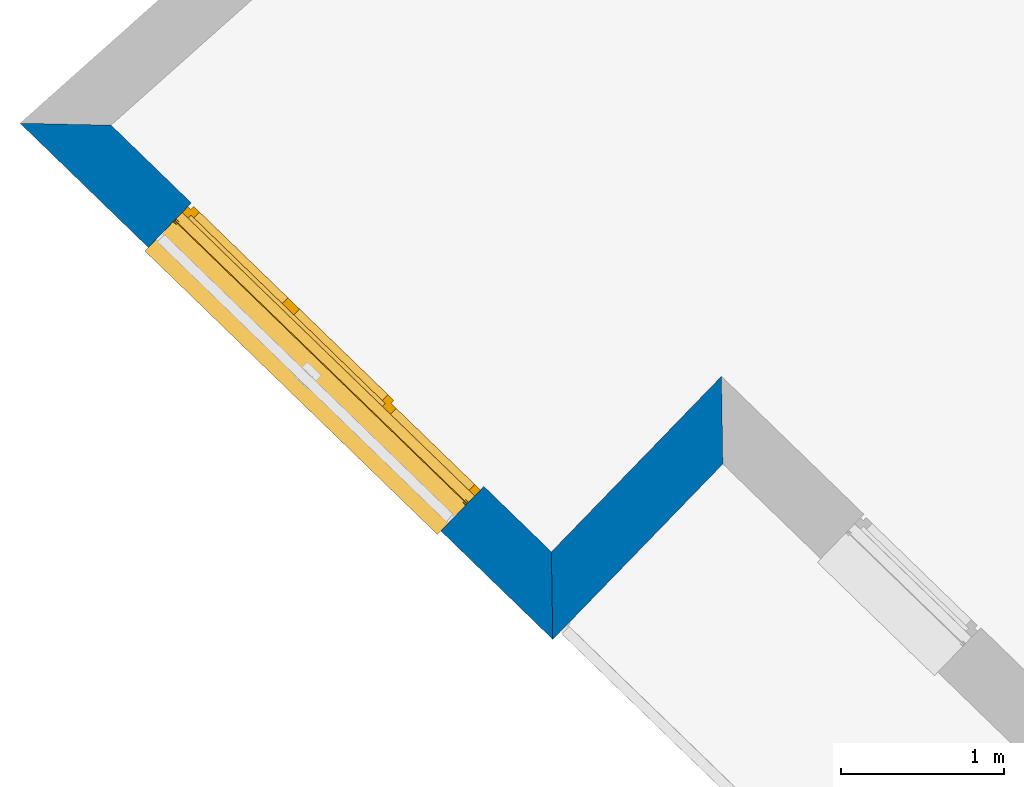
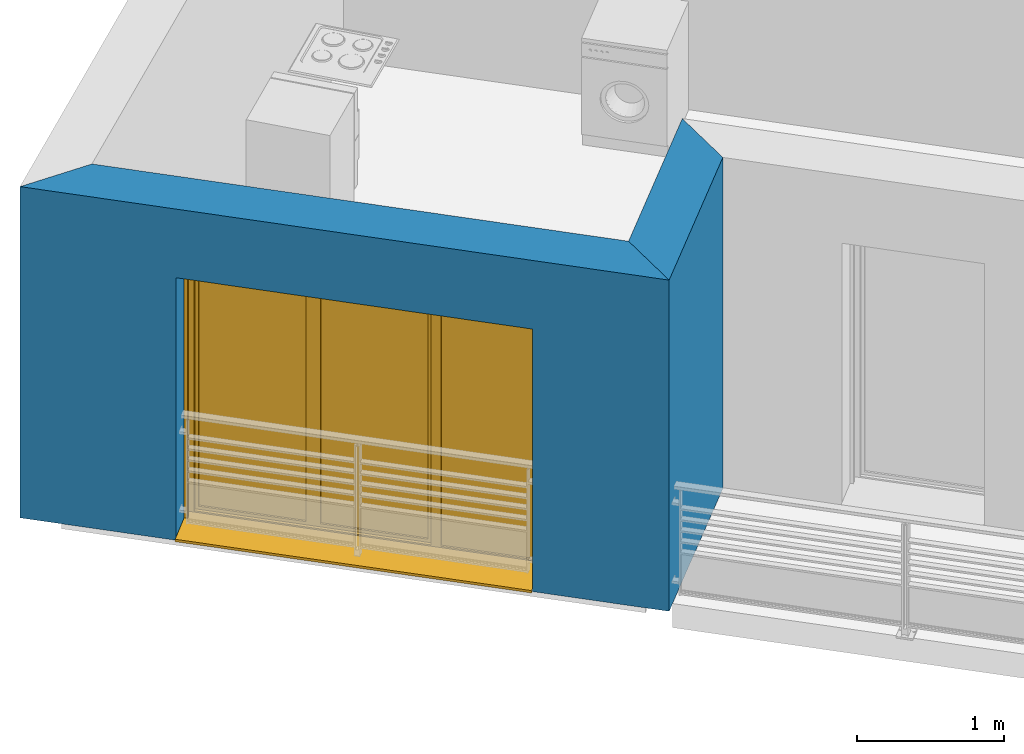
# One storey, part 11 of 121: 2 walls, 1 window, 1 opening.
"""IFC2X3 building model written with IfcOpenShell, lengths in metres."""

from ifc_helpers import new_model, entity, si_unit, converted_unit, derived_unit, money_unit, direction, frame, origin_with_axes, place, context, subcontext, project, spatial, polyline, outline, extrude, open_shell, faceted_brep, surface_model, source, transform, mapped, material, layer, layer_set, layer_usage, type_object, element, fill, save


model = new_model("IFC2X3")

# Units and contexts
model_context = context("Model", 3, precision=1e-05, world=origin_with_axes(), true_north=direction((0.0, 1.0)))
body_context = subcontext(model_context, "Body", "Model", "MODEL_VIEW")
ifc_project = project(units=[si_unit("LENGTHUNIT", "METRE"), si_unit("AREAUNIT", "SQUARE_METRE"), si_unit("VOLUMEUNIT", "CUBIC_METRE"), converted_unit("PLANEANGLEUNIT", "DEGREE", entity("IfcPlaneAngleMeasure", 0.0174532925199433), si_unit("PLANEANGLEUNIT", "RADIAN"), dimensions=[0, 0, 0, 0, 0, 0, 0]), money_unit("CHF"), converted_unit("TIMEUNIT", "Year", entity("IfcTimeMeasure", 31557600.0), si_unit("TIMEUNIT", "SECOND"), dimensions=[0, 0, 1, 0, 0, 0, 0]), si_unit("MASSUNIT", "GRAM", prefix="KILO"), si_unit("THERMODYNAMICTEMPERATUREUNIT", "DEGREE_CELSIUS"), si_unit("LUMINOUSINTENSITYUNIT", "LUMEN"), si_unit("ENERGYUNIT", "JOULE", prefix="MEGA"), derived_unit("THERMALCONDUCTANCEUNIT", [(si_unit("POWERUNIT", "WATT"), 1), (si_unit("LENGTHUNIT", "METRE"), -1), (si_unit("THERMODYNAMICTEMPERATUREUNIT", "KELVIN"), -1)]), derived_unit("SPECIFICHEATCAPACITYUNIT", [(si_unit("ENERGYUNIT", "JOULE"), 1), (si_unit("MASSUNIT", "GRAM", prefix="KILO"), -1), (si_unit("THERMODYNAMICTEMPERATUREUNIT", "KELVIN"), -1)]), derived_unit("MASSDENSITYUNIT", [(si_unit("MASSUNIT", "GRAM", prefix="KILO"), 1), (si_unit("VOLUMEUNIT", "CUBIC_METRE"), -1)])], contexts=[model_context])

# Site, building, storey
site_placement = place(None, origin_with_axes())
site = spatial("IfcSite", under=ifc_project, at=site_placement, Name="Site", CompositionType="ELEMENT")
building_placement = place(site_placement, origin_with_axes())
building = spatial("IfcBuilding", under=site, at=building_placement, Name="Bâtiment", CompositionType="ELEMENT")
storey_placement = place(building_placement, frame((0.0, 0.0, 2.75), z_axis=(0.0, 0.0, 1.0), x_axis=(1.0, 0.0, 0.0)))
storey = spatial("IfcBuildingStorey", under=building, at=storey_placement, Name="Etage 1", CompositionType="ELEMENT", Elevation=2.75)

# Wall
ifc_material_1 = material(Name="Parpaing 312445824")
ifc_layer_1 = layer(ifc_material_1, 0.22, ventilated="UNKNOWN")
ifc_material_2 = material(Name="Isolant styromousse 301821074")
ifc_layer_2 = layer(ifc_material_2, 0.16, ventilated="UNKNOWN")
ifc_layer_set = layer_set([ifc_layer_1, ifc_layer_2], Name="isol int 22+16 0836643197")
ifc_layer_usage_1 = layer_usage(ifc_layer_set, "AXIS2", "NEGATIVE", 0.0)
wall_type = type_object("IfcWallType", Name="isol int 22+16 0836643197 380", PredefinedType="NOTDEFINED")
wall_1_placement = place(storey_placement, frame((9515.572352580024, -1064.510660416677, 57.7), z_axis=(0.0, 0.0, 1.0), x_axis=(-0.6958610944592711, -0.7181763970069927, 0.0)))
element("IfcWallStandardCase", 1, at=wall_1_placement, inside=storey, type_object=wall_type, material=ifc_layer_usage_1, Name="Mur-115", context=body_context, shape_type="SweptSolid", body=[
    extrude(outline(polyline([(-0.380000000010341, -0.3799999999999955), (1.120000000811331, -0.3799999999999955), (1.500000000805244, 0.0), (0.0, 0.0), (-0.380000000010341, -0.3799999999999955)])), origin_with_axes(), (0.0, 0.0, 1.0), 2.75),
])

# Wall, opening, window
ifc_layer_usage_2 = layer_usage(ifc_layer_set, "AXIS2", "NEGATIVE", 0.0)
wall_2_placement = place(storey_placement, frame((9514.528560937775, -1065.587925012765, 57.7), z_axis=(0.0, 0.0, 1.0), x_axis=(-0.7181763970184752, 0.6958610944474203, 0.0)))
wall_2 = element("IfcWallStandardCase", 2, at=wall_2_placement, inside=storey, type_object=wall_type, material=ifc_layer_usage_2, Name="Mur-115", context=body_context, shape_type="SweptSolid", body=[
    extrude(outline(polyline([(0.3799999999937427, -0.3800000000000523), (4.143226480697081, -0.3800000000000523), (4.552444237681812, 0.0), (0.0, 0.0), (0.3799999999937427, -0.3800000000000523)])), origin_with_axes(), (0.0, 0.0, 1.0), 2.75),
])
opening_placement = place(wall_2_placement, frame((2.206747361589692, 0.0, 0.0), z_axis=(0.0, 0.0, 1.0), x_axis=(1.0, 0.0, 0.0)))
opening = element("IfcOpeningElement", 3, at=opening_placement, cuts=wall_2, Name="Fen-050", context=body_context, shape_type="Brep", body=[
    faceted_brep([(1.25, -0.4800000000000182, 2.18), (-1.249999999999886, -0.4800000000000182, 2.18), (-1.25, -2.656088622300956, 2.18), (1.250000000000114, -2.656088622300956, 2.18), (1.25, -0.4800000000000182, 2.380000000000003), (-1.249999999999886, -0.4800000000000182, 2.380000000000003), (-1.249999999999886, -0.3000000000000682, 2.18), (-1.249999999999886, -0.3000000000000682, 0.0), (-1.25, -2.656088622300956, 0.0), (1.250000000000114, -2.656088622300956, 0.0), (1.250000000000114, -0.2999999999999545, 2.18), (1.250000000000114, -0.2999999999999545, 0.0), (1.25, -0.2200000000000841, 2.18), (1.25, -0.2200000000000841, 2.380000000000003), (-1.25, -0.220000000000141, 2.380000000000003), (-1.25, -0.220000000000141, 2.18), (-1.25, 2.276088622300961, 2.18), (-1.25, 2.276088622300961, 0.0), (1.250000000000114, 2.276088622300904, 0.0), (1.250000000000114, 2.276088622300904, 2.18)], [[[0, 1, 2, 3]], [[1, 0, 4, 5]], [[1, 6, 7, 8, 2]], [[2, 8, 9, 3]], [[10, 0, 3, 9, 11]], [[0, 10, 12, 13, 4]], [[14, 5, 4, 13]], [[6, 1, 5, 14, 15]], [[6, 15, 16, 17, 7]], [[7, 11, 9, 8]], [[12, 10, 11, 18, 19]], [[12, 15, 14, 13]], [[15, 12, 19, 16]], [[19, 18, 17, 16]], [[11, 7, 17, 18]]]),
])
window_style = type_object("IfcWindowStyle", Name="Fenêtre variable 27", ConstructionType="NOTDEFINED", OperationType="TRIPLE_PANEL_VERTICAL", ParameterTakesPrecedence=False, Sizeable=False)
shared_shape = source(origin_with_axes(), body_context, "Body", "SurfaceModel", [
    surface_model("IfcShellBasedSurfaceModel", [(-1.25, -0.05100000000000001, 0.05), (-1.25, -0.05100000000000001, 0.04), (1.25, -0.05100000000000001, 0.04000000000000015), (1.25, -0.05100000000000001, 0.05000000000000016), (-1.25, -0.3799999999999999, 0.02899999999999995), (1.25, -0.3799999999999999, 0.02900000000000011), (-1.25, -0.3799999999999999, 0.008999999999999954), (1.25, -0.3799999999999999, 0.009000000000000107), (-1.25, -0.3699999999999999, 0.01899999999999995), (1.25, -0.3699999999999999, 0.01900000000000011)], [open_shell([[[0, 1, 2, 3]], [[1, 4, 5, 2]], [[4, 6, 7, 5]], [[6, 8, 9, 7]]])]),
    faceted_brep([(-1.25, -0.1300000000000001, 2.38), (-1.247, -0.1300000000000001, 2.38), (-1.247, 0.1299999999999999, 2.38), (-1.25, 0.1299999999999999, 2.38), (-1.25, -0.1300000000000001, 2.18), (-1.247, -0.1300000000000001, 2.18), (-1.247, 0.1299999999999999, 2.18), (-1.25, 0.1299999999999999, 2.18)], [[[0, 1, 2, 3]], [[4, 5, 1, 0]], [[1, 5, 6, 2]], [[3, 2, 6, 7]], [[0, 3, 7, 4]], [[7, 6, 5, 4]]]),
    faceted_brep([(1.247, -0.1299999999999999, 2.38), (1.25, -0.1299999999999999, 2.38), (1.25, 0.1300000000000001, 2.38), (1.247, 0.1300000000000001, 2.38), (1.247, -0.1299999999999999, 2.18), (1.25, -0.1299999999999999, 2.18), (1.25, 0.1300000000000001, 2.18), (1.247, 0.1300000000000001, 2.18)], [[[0, 1, 2, 3]], [[4, 5, 1, 0]], [[1, 5, 6, 2]], [[3, 2, 6, 7]], [[0, 3, 7, 4]], [[7, 6, 5, 4]]]),
    faceted_brep([(-1.247, -0.1300000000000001, 2.18), (1.247, -0.1299999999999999, 2.18), (1.247, -0.1299999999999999, 2.38), (-1.247, -0.1300000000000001, 2.38), (-1.247, -0.1270000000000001, 2.18), (1.247, -0.1269999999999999, 2.18), (1.247, -0.1269999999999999, 2.377), (1.247, 0.1270000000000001, 2.377), (1.247, 0.1270000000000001, 2.183), (1.247, -0.1079999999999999, 2.183), (1.247, -0.1079999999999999, 2.18), (1.247, 0.1300000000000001, 2.18), (1.247, 0.1300000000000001, 2.38), (-1.247, 0.1299999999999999, 2.38), (-1.247, 0.1299999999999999, 2.18), (-1.247, -0.1080000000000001, 2.18), (-1.247, -0.1080000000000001, 2.183), (-1.247, 0.1269999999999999, 2.183), (-1.247, 0.1269999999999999, 2.377), (-1.247, -0.1270000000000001, 2.377)], [[[0, 1, 2, 3]], [[4, 5, 1, 0]], [[1, 5, 6, 7, 8, 9, 10, 11, 12, 2]], [[3, 2, 12, 13]], [[0, 3, 13, 14, 15, 16, 17, 18, 19, 4]], [[19, 6, 5, 4]], [[18, 7, 6, 19]], [[17, 8, 7, 18]], [[16, 9, 8, 17]], [[15, 10, 9, 16]], [[14, 11, 10, 15]], [[13, 12, 11, 14]]]),
    faceted_brep([(-1.244, -0.08075423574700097, 2.265760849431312), (-1.244, -0.08200000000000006, 2.28), (-1.244, -0.08075423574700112, 2.294239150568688), (-1.244, -0.07705479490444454, 2.308045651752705), (-1.244, -0.07101408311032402, 2.321), (-1.244, -0.06281564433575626, 2.332708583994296), (-1.244, -0.05270858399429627, 2.342815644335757), (-1.244, -0.04100000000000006, 2.351014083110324), (-1.244, -0.0280456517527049, 2.357054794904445), (-1.244, -0.01423915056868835, 2.360754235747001), (-1.244, 0.0, 2.362), (-1.244, 0.01423915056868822, 2.360754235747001), (-1.244, 0.02804565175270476, 2.357054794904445), (-1.244, 0.04099999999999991, 2.351014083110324), (-1.244, 0.05270858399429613, 2.342815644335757), (-1.244, 0.0628156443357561, 2.332708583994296), (-1.244, 0.07101408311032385, 2.321), (-1.244, 0.07705479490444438, 2.308045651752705), (-1.244, 0.08075423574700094, 2.294239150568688), (-1.244, 0.08199999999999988, 2.28), (-1.244, 0.08075423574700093, 2.265760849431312), (-1.244, 0.07705479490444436, 2.251954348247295), (-1.244, 0.07101408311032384, 2.239), (-1.244, 0.06281564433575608, 2.227291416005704), (-1.244, 0.05270858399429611, 2.217184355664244), (-1.244, 0.0409999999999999, 2.208985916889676), (-1.244, 0.02804565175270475, 2.202945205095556), (-1.244, 0.01423915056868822, 2.199245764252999), (-1.244, 0.0, 2.198), (-1.244, -0.01423915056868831, 2.199245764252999), (-1.244, -0.02804565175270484, 2.202945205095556), (-1.244, -0.04099999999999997, 2.208985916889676), (-1.244, -0.05270858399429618, 2.217184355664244), (-1.244, -0.06281564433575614, 2.227291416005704), (-1.244, -0.07101408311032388, 2.239), (-1.244, -0.07705479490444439, 2.251954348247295), (1.244, -0.08075423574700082, 2.265760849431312), (1.244, -0.0819999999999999, 2.28), (1.244, -0.08075423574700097, 2.294239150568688), (1.244, -0.07705479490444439, 2.308045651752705), (1.244, -0.07101408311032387, 2.321), (1.244, -0.06281564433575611, 2.332708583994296), (1.244, -0.05270858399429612, 2.342815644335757), (1.244, -0.0409999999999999, 2.351014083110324), (1.244, -0.02804565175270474, 2.357054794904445), (1.244, -0.0142391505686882, 2.360754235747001), (1.244, 0.0, 2.362), (1.244, 0.01423915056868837, 2.360754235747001), (1.244, 0.02804565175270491, 2.357054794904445), (1.244, 0.04100000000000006, 2.351014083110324), (1.244, 0.05270858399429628, 2.342815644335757), (1.244, 0.06281564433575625, 2.332708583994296), (1.244, 0.071014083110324, 2.321), (1.244, 0.07705479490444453, 2.308045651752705), (1.244, 0.0807542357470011, 2.294239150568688), (1.244, 0.08200000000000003, 2.28), (1.244, 0.08075423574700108, 2.265760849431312), (1.244, 0.07705479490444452, 2.251954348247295), (1.244, 0.07101408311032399, 2.239), (1.244, 0.06281564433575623, 2.227291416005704), (1.244, 0.05270858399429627, 2.217184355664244), (1.244, 0.04100000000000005, 2.208985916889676), (1.244, 0.02804565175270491, 2.202945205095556), (1.244, 0.01423915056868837, 2.199245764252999), (1.244, 0.0, 2.198), (1.244, -0.01423915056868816, 2.199245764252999), (1.244, -0.02804565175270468, 2.202945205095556), (1.244, -0.04099999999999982, 2.208985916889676), (1.244, -0.05270858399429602, 2.217184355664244), (1.244, -0.06281564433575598, 2.227291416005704), (1.244, -0.07101408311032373, 2.239), (1.244, -0.07705479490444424, 2.251954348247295)], [[[0, 1, 2, 3, 4, 5, 6, 7, 8, 9, 10, 11, 12, 13, 14, 15, 16, 17, 18, 19, 20, 21, 22, 23, 24, 25, 26, 27, 28, 29, 30, 31, 32, 33, 34, 35]], [[0, 36, 37, 1]], [[1, 37, 38, 2]], [[2, 38, 39, 3]], [[3, 39, 40, 4]], [[4, 40, 41, 5]], [[5, 41, 42, 6]], [[6, 42, 43, 7]], [[7, 43, 44, 8]], [[8, 44, 45, 9]], [[9, 45, 46, 10]], [[10, 46, 47, 11]], [[11, 47, 48, 12]], [[12, 48, 49, 13]], [[13, 49, 50, 14]], [[14, 50, 51, 15]], [[15, 51, 52, 16]], [[16, 52, 53, 17]], [[17, 53, 54, 18]], [[18, 54, 55, 19]], [[19, 55, 56, 20]], [[20, 56, 57, 21]], [[21, 57, 58, 22]], [[22, 58, 59, 23]], [[23, 59, 60, 24]], [[24, 60, 61, 25]], [[25, 61, 62, 26]], [[26, 62, 63, 27]], [[27, 63, 64, 28]], [[28, 64, 65, 29]], [[29, 65, 66, 30]], [[30, 66, 67, 31]], [[31, 67, 68, 32]], [[32, 68, 69, 33]], [[33, 69, 70, 34]], [[34, 70, 71, 35]], [[35, 71, 36, 0]], [[36, 71, 70, 69, 68, 67, 66, 65, 64, 63, 62, 61, 60, 59, 58, 57, 56, 55, 54, 53, 52, 51, 50, 49, 48, 47, 46, 45, 44, 43, 42, 41, 40, 39, 38, 37]]]),
    faceted_brep([(1.25, -0.105, 0.03), (1.25, -0.1049999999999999, 2.18), (1.25, -0.1299999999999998, 2.18), (1.25, -0.13, 0.03), (1.225, -0.105, 0.03), (1.225, -0.1049999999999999, 2.18), (1.225, -0.1079999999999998, 2.18), (1.247, -0.1079999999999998, 2.18), (1.247, -0.1269999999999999, 2.18), (1.225, -0.1269999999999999, 2.18), (1.225, -0.1299999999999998, 2.18), (1.225, -0.13, 0.03), (1.225, -0.127, 0.03), (1.247, -0.127, 0.03), (1.247, -0.108, 0.03), (1.225, -0.108, 0.03)], [[[0, 1, 2, 3]], [[4, 5, 1, 0]], [[1, 5, 6, 7, 8, 9, 10, 2]], [[3, 2, 10, 11]], [[0, 3, 11, 12, 13, 14, 15, 4]], [[15, 6, 5, 4]], [[14, 7, 6, 15]], [[13, 8, 7, 14]], [[12, 9, 8, 13]], [[11, 10, 9, 12]]]),
    faceted_brep([(-1.25, -0.105, 0.03), (-1.25, -0.13, 0.03), (-1.25, -0.1299999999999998, 2.18), (-1.25, -0.1049999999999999, 2.18), (-1.225, -0.105, 0.03), (-1.225, -0.108, 0.03), (-1.247, -0.108, 0.03), (-1.247, -0.127, 0.03), (-1.225, -0.127, 0.03), (-1.225, -0.13, 0.03), (-1.225, -0.1299999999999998, 2.18), (-1.225, -0.1269999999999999, 2.18), (-1.247, -0.1269999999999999, 2.18), (-1.247, -0.1079999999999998, 2.18), (-1.225, -0.1079999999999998, 2.18), (-1.225, -0.1049999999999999, 2.18)], [[[0, 1, 2, 3]], [[0, 4, 5, 6, 7, 8, 9, 1]], [[1, 9, 10, 2]], [[3, 2, 10, 11, 12, 13, 14, 15]], [[4, 0, 3, 15]], [[5, 4, 15, 14]], [[6, 5, 14, 13]], [[7, 6, 13, 12]], [[8, 7, 12, 11]], [[9, 8, 11, 10]]]),
    surface_model("IfcShellBasedSurfaceModel", [(-1.247, -0.115, 2.28), (1.247, -0.1149999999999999, 2.28), (1.247, -0.1199999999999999, 2.28), (-1.247, -0.1200000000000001, 2.28), (-1.247, -0.115, 2.28), (-1.247, -0.1200000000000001, 2.28), (1.247, -0.1199999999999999, 2.28), (1.247, -0.1149999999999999, 2.28)], [open_shell([[[0, 1, 2, 3]], [[4, 5, 6, 7]]])]),
    faceted_brep([(-1.247, -0.115, 2.28), (1.247, -0.1149999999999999, 2.28), (1.247, -0.1166666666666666, 2.263333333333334), (-1.247, -0.1166666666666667, 2.263333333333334), (-1.247, -0.1200000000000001, 2.28), (1.247, -0.1199999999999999, 2.28), (1.247, -0.1216666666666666, 2.263333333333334), (1.247, -0.1216666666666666, 2.246666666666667), (1.247, -0.1199999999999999, 2.23), (1.247, -0.1149999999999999, 2.23), (1.247, -0.1166666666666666, 2.246666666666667), (-1.247, -0.1166666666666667, 2.246666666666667), (-1.247, -0.115, 2.23), (-1.247, -0.1200000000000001, 2.23), (-1.247, -0.1216666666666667, 2.246666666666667), (-1.247, -0.1216666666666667, 2.263333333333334)], [[[0, 1, 2, 3]], [[4, 5, 1, 0]], [[1, 5, 6, 7, 8, 9, 10, 2]], [[3, 2, 10, 11]], [[0, 3, 11, 12, 13, 14, 15, 4]], [[15, 6, 5, 4]], [[14, 7, 6, 15]], [[13, 8, 7, 14]], [[12, 9, 8, 13]], [[11, 10, 9, 12]]]),
    faceted_brep([(-1.247, -0.115, 2.23), (1.247, -0.1149999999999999, 2.23), (1.247, -0.1166666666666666, 2.213333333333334), (-1.247, -0.1166666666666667, 2.213333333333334), (-1.247, -0.1200000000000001, 2.23), (1.247, -0.1199999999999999, 2.23), (1.247, -0.1216666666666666, 2.213333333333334), (1.247, -0.1216666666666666, 2.196666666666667), (1.247, -0.1199999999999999, 2.180000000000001), (1.247, -0.1149999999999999, 2.180000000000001), (1.247, -0.1166666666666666, 2.196666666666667), (-1.247, -0.1166666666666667, 2.196666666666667), (-1.247, -0.115, 2.180000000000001), (-1.247, -0.1200000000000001, 2.180000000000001), (-1.247, -0.1216666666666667, 2.196666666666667), (-1.247, -0.1216666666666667, 2.213333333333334)], [[[0, 1, 2, 3]], [[4, 5, 1, 0]], [[1, 5, 6, 7, 8, 9, 10, 2]], [[3, 2, 10, 11]], [[0, 3, 11, 12, 13, 14, 15, 4]], [[15, 6, 5, 4]], [[14, 7, 6, 15]], [[13, 8, 7, 14]], [[12, 9, 8, 13]], [[11, 10, 9, 12]]]),
    faceted_brep([(-1.225, 0.0, 2.13), (-1.25, 0.0, 2.13), (-1.25, -0.05000000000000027, 2.13), (-1.2, -0.05000000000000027, 2.13), (-1.2, -0.02500000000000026, 2.13), (-1.225, -0.02500000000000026, 2.13), (-1.225, 0.0, 0.05000000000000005), (-1.25, 0.0, 0.05000000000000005), (-1.25, -0.05000000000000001, 0.05000000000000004), (-1.2, -0.05000000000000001, 0.05000000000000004), (-1.2, -0.02500000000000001, 0.05000000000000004), (-1.225, -0.02500000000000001, 0.05000000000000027)], [[[0, 1, 2, 3, 4, 5]], [[6, 7, 1, 0]], [[1, 7, 8, 2]], [[2, 8, 9, 3]], [[4, 3, 9, 10]], [[10, 11, 5, 4]], [[5, 11, 6, 0]], [[11, 10, 9, 8, 7, 6]]]),
    faceted_brep([(0.4600000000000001, -0.02500000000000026, 2.13), (0.4600000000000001, -0.05000000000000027, 2.13), (0.5300000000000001, -0.05000000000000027, 2.13), (0.5300000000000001, 0.0, 2.13), (0.4850000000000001, 0.0, 2.13), (0.4850000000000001, -0.02500000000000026, 2.13), (0.4600000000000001, -0.02500000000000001, 0.05000000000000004), (0.4600000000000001, -0.05000000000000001, 0.05000000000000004), (0.5300000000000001, -0.05000000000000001, 0.05000000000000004), (0.5300000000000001, 0.0, 0.05000000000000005), (0.4850000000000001, 0.0, 0.05000000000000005), (0.4850000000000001, -0.02500000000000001, 0.05000000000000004)], [[[0, 1, 2, 3, 4, 5]], [[6, 7, 1, 0]], [[8, 2, 1, 7]], [[9, 3, 2, 8]], [[4, 3, 9, 10]], [[10, 11, 5, 4]], [[5, 11, 6, 0]], [[11, 10, 9, 8, 7, 6]]]),
    faceted_brep([(0.4600000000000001, -0.02500000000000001, 0.05000000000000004), (0.4600000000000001, -0.05000000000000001, 0.05000000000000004), (0.5300000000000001, -0.05000000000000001, 0.05000000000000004), (0.5300000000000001, 0.0, 0.05000000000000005), (0.4850000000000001, 0.0, 0.05000000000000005), (0.4850000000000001, -0.02500000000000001, 0.05000000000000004), (-1.2, -0.02500000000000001, 0.05000000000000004), (-1.2, -0.05000000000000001, 0.05000000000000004), (-1.25, -0.05000000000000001, 0.05000000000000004), (-1.25, -0.05, 0.0), (1.25, -0.05, 0.0), (1.25, -0.05000000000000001, 0.05000000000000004), (1.2, -0.05000000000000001, 0.05000000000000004), (1.2, 0.0, 0.05000000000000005), (-1.225, 0.0, 0.02499999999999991), (0.4850000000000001, 0.0, 0.02499999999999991), (1.25, 0.0, 0.05000000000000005), (1.25, 0.0, 0.0), (-1.25, 0.0, 0.0), (-1.25, 0.0, 0.05000000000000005), (-1.225, 0.0, 0.05000000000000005), (0.4850000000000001, -0.025, 0.02499999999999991), (-1.225, -0.025, 0.02499999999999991), (-1.225, -0.02500000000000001, 0.05000000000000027)], [[[0, 1, 2, 3, 4, 5]], [[6, 7, 1, 0]], [[8, 9, 10, 11, 12, 2, 1, 7]], [[13, 3, 2, 12]], [[14, 15, 4, 3, 13, 16, 17, 18, 19, 20]], [[15, 21, 5, 4]], [[5, 21, 22, 23, 6, 0]], [[23, 20, 19, 8, 7, 6]], [[19, 18, 9, 8]], [[18, 17, 10, 9]], [[17, 16, 11, 10]], [[16, 13, 12, 11]], [[14, 22, 21, 15]], [[23, 22, 14, 20]]]),
    faceted_brep([(-1.225, 0.0, 2.13), (-1.25, 0.0, 2.13), (-1.25, 0.0, 2.18), (1.25, 0.0, 2.18), (1.25, 0.0, 2.13), (1.2, 0.0, 2.13), (0.5300000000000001, 0.0, 2.13), (0.4850000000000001, 0.0, 2.13), (0.4850000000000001, 0.0, 2.155), (-1.225, 0.0, 2.155), (-1.225, -0.02500000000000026, 2.13), (-1.2, -0.02500000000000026, 2.13), (-1.2, -0.05000000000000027, 2.13), (-1.25, -0.05000000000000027, 2.13), (-1.25, -0.05000000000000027, 2.18), (1.25, -0.05000000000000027, 2.18), (1.25, -0.05000000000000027, 2.13), (1.2, -0.05000000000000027, 2.13), (0.5300000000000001, -0.05000000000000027, 2.13), (0.4850000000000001, -0.02500000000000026, 2.13), (0.4600000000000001, -0.05000000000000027, 2.13), (0.4600000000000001, -0.02500000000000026, 2.13), (0.4850000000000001, -0.02500000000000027, 2.155), (-1.225, -0.02500000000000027, 2.155)], [[[0, 1, 2, 3, 4, 5, 6, 7, 8, 9]], [[10, 11, 12, 13, 1, 0]], [[2, 1, 13, 14]], [[3, 2, 14, 15]], [[4, 3, 15, 16]], [[5, 4, 16, 17]], [[6, 5, 17, 18]], [[19, 7, 6, 18, 20, 21]], [[7, 19, 22, 8]], [[8, 22, 23, 9]], [[9, 23, 10, 0]], [[21, 11, 10, 23, 22, 19]], [[21, 20, 12, 11]], [[18, 17, 16, 15, 14, 13, 12, 20]]]),
    faceted_brep([(1.2, -0.05000000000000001, 0.05), (1.2, 0.0, 0.05000000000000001), (1.25, 0.0, 0.05000000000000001), (1.25, -0.05000000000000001, 0.05), (1.2, -0.05000000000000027, 2.13), (1.2, 0.0, 2.13), (1.25, 0.0, 2.13), (1.25, -0.05000000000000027, 2.13)], [[[0, 1, 2, 3]], [[4, 5, 1, 0]], [[1, 5, 6, 2]], [[3, 2, 6, 7]], [[0, 3, 7, 4]], [[7, 6, 5, 4]]]),
    faceted_brep([(-0.3199999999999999, -0.02500000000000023, 2.105), (-0.3199999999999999, 0.02499999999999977, 2.105), (-0.3699999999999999, 0.02499999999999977, 2.105), (-0.3699999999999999, -0.02500000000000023, 2.105), (-0.3199999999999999, -0.02499999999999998, 0.07500000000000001), (-0.3199999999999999, 0.02500000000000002, 0.07500000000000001), (-0.3699999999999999, 0.02500000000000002, 0.07500000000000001), (-0.3699999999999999, -0.02499999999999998, 0.07500000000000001)], [[[0, 1, 2, 3]], [[4, 5, 1, 0]], [[1, 5, 6, 2]], [[3, 2, 6, 7]], [[0, 3, 7, 4]], [[7, 6, 5, 4]]]),
    faceted_brep([(0.4350000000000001, -0.02500000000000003, 0.07500000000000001), (0.4350000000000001, 0.02499999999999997, 0.07500000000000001), (0.4850000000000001, 0.02499999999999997, 0.07500000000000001), (0.4850000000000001, -0.02500000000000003, 0.07500000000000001), (0.4350000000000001, -0.02500000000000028, 2.105), (0.4350000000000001, 0.02499999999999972, 2.105), (0.4850000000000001, 0.02499999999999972, 2.105), (0.4850000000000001, -0.02500000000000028, 2.105)], [[[0, 1, 2, 3]], [[4, 5, 1, 0]], [[1, 5, 6, 2]], [[3, 2, 6, 7]], [[0, 3, 7, 4]], [[7, 6, 5, 4]]]),
    faceted_brep([(0.4850000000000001, -0.02500000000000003, 0.025), (0.4850000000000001, 0.02499999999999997, 0.02500000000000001), (0.4850000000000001, 0.02499999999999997, 0.07500000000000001), (0.4850000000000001, -0.02500000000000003, 0.07500000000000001), (-0.3699999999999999, -0.02499999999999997, 0.025), (-0.3699999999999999, 0.02500000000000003, 0.02500000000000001), (-0.3699999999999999, 0.02500000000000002, 0.07500000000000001), (-0.3199999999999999, 0.02500000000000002, 0.07500000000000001), (0.4350000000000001, 0.02499999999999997, 0.07500000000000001), (0.4350000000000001, -0.02500000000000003, 0.07500000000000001), (-0.3199999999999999, -0.02499999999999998, 0.07500000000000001), (-0.3699999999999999, -0.02499999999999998, 0.07500000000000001)], [[[0, 1, 2, 3]], [[4, 5, 1, 0]], [[1, 5, 6, 7, 8, 2]], [[3, 2, 8, 9]], [[0, 3, 9, 10, 11, 4]], [[11, 6, 5, 4]], [[10, 7, 6, 11]], [[9, 8, 7, 10]]]),
    faceted_brep([(-0.3699999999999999, -0.02500000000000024, 2.155), (-0.3699999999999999, 0.02499999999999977, 2.155), (-0.3699999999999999, 0.02499999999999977, 2.105), (-0.3699999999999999, -0.02500000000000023, 2.105), (0.4850000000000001, -0.02500000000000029, 2.155), (0.4850000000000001, 0.02499999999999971, 2.155), (0.4850000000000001, 0.02499999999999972, 2.105), (0.4350000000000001, 0.02499999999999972, 2.105), (-0.3199999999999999, 0.02499999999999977, 2.105), (-0.3199999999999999, -0.02500000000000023, 2.105), (0.4350000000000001, -0.02500000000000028, 2.105), (0.4850000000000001, -0.02500000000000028, 2.105)], [[[0, 1, 2, 3]], [[4, 5, 1, 0]], [[1, 5, 6, 7, 8, 2]], [[3, 2, 8, 9]], [[0, 3, 9, 10, 11, 4]], [[11, 6, 5, 4]], [[10, 7, 6, 11]], [[9, 8, 7, 10]]]),
    surface_model("IfcShellBasedSurfaceModel", [(-0.3199999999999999, -0.01000000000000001, 0.07500000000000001), (0.4350000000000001, -0.01000000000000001, 0.07500000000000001), (0.4350000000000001, -0.01000000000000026, 2.105), (-0.3199999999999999, -0.01000000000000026, 2.105)], [open_shell([[[0, 1, 2, 3]]])]),
    surface_model("IfcShellBasedSurfaceModel", [(-0.3199999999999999, 0.009999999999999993, 0.07500000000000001), (-0.3199999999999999, 0.009999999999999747, 2.105), (0.4350000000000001, 0.009999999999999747, 2.105), (0.4350000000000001, 0.009999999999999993, 0.07500000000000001)], [open_shell([[[0, 1, 2, 3]]])]),
    faceted_brep([(-1.175, -0.02500000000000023, 2.105), (-1.175, 0.02499999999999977, 2.105), (-1.225, 0.02499999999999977, 2.105), (-1.225, -0.02500000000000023, 2.105), (-1.175, -0.02499999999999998, 0.07500000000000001), (-1.175, 0.02500000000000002, 0.07500000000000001), (-1.225, 0.02500000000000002, 0.07500000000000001), (-1.225, -0.02499999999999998, 0.07500000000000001)], [[[0, 1, 2, 3]], [[4, 5, 1, 0]], [[1, 5, 6, 2]], [[3, 2, 6, 7]], [[0, 3, 7, 4]], [[7, 6, 5, 4]]]),
    faceted_brep([(-0.4199999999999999, -0.02500000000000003, 0.07500000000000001), (-0.4199999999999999, 0.02499999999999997, 0.07500000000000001), (-0.3699999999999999, 0.02499999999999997, 0.07500000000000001), (-0.3699999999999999, -0.02500000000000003, 0.07500000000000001), (-0.4199999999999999, -0.02500000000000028, 2.105), (-0.4199999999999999, 0.02499999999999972, 2.105), (-0.3699999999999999, 0.02499999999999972, 2.105), (-0.3699999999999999, -0.02500000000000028, 2.105)], [[[0, 1, 2, 3]], [[4, 5, 1, 0]], [[1, 5, 6, 2]], [[3, 2, 6, 7]], [[0, 3, 7, 4]], [[7, 6, 5, 4]]]),
    faceted_brep([(-0.3699999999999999, -0.02500000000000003, 0.025), (-0.3699999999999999, 0.02499999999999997, 0.02500000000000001), (-0.3699999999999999, 0.02499999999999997, 0.07500000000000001), (-0.3699999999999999, -0.02500000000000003, 0.07500000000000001), (-1.225, -0.02499999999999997, 0.025), (-1.225, 0.02500000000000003, 0.02500000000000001), (-1.225, 0.02500000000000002, 0.07500000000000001), (-1.175, 0.02500000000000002, 0.07500000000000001), (-0.4199999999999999, 0.02499999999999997, 0.07500000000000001), (-0.4199999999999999, -0.02500000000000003, 0.07500000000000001), (-1.175, -0.02499999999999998, 0.07500000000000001), (-1.225, -0.02499999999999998, 0.07500000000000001)], [[[0, 1, 2, 3]], [[4, 5, 1, 0]], [[1, 5, 6, 7, 8, 2]], [[3, 2, 8, 9]], [[0, 3, 9, 10, 11, 4]], [[11, 6, 5, 4]], [[10, 7, 6, 11]], [[9, 8, 7, 10]]]),
    faceted_brep([(-1.225, -0.02500000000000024, 2.155), (-1.225, 0.02499999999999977, 2.155), (-1.225, 0.02499999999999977, 2.105), (-1.225, -0.02500000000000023, 2.105), (-0.3699999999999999, -0.02500000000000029, 2.155), (-0.3699999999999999, 0.02499999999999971, 2.155), (-0.3699999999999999, 0.02499999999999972, 2.105), (-0.4199999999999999, 0.02499999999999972, 2.105), (-1.175, 0.02499999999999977, 2.105), (-1.175, -0.02500000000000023, 2.105), (-0.4199999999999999, -0.02500000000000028, 2.105), (-0.3699999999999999, -0.02500000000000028, 2.105)], [[[0, 1, 2, 3]], [[4, 5, 1, 0]], [[1, 5, 6, 7, 8, 2]], [[3, 2, 8, 9]], [[0, 3, 9, 10, 11, 4]], [[11, 6, 5, 4]], [[10, 7, 6, 11]], [[9, 8, 7, 10]]]),
    surface_model("IfcShellBasedSurfaceModel", [(-1.175, -0.01000000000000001, 0.07500000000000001), (-0.4199999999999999, -0.01000000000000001, 0.07500000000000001), (-0.4199999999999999, -0.01000000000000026, 2.105), (-1.175, -0.01000000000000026, 2.105)], [open_shell([[[0, 1, 2, 3]]])]),
    surface_model("IfcShellBasedSurfaceModel", [(-1.175, 0.009999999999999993, 0.07500000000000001), (-1.175, 0.009999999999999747, 2.105), (-0.4199999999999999, 0.009999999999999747, 2.105), (-0.4199999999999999, 0.009999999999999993, 0.07500000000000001)], [open_shell([[[0, 1, 2, 3]]])]),
    surface_model("IfcShellBasedSurfaceModel", [(0.5300000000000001, -0.035, 0.05), (1.2, -0.035, 0.05), (1.2, -0.03500000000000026, 2.13), (0.5300000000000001, -0.03500000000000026, 2.13)], [open_shell([[[0, 1, 2, 3]]])]),
    surface_model("IfcShellBasedSurfaceModel", [(0.5300000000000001, -0.015, 0.05), (0.5300000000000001, -0.01500000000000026, 2.13), (1.2, -0.01500000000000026, 2.13), (1.2, -0.015, 0.05)], [open_shell([[[0, 1, 2, 3]]])]),
])
window_placement = place(opening_placement, frame((1.250000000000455, 0.0, 0.0), z_axis=(0.0, 0.0, 1.0), x_axis=(-1.0, 0.0, 0.0)))
window = element("IfcWindow", 4, at=window_placement, inside=storey, type_object=window_style, Name="Fen-050", OverallHeight=2.18, OverallWidth=2.5, context=body_context, shape_type="MappedRepresentation", body=[
    mapped(shared_shape, transform((1.249999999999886, 0.3499999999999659, 0.0))),
])
fill(opening, window)

save(model, "model.ifc")
